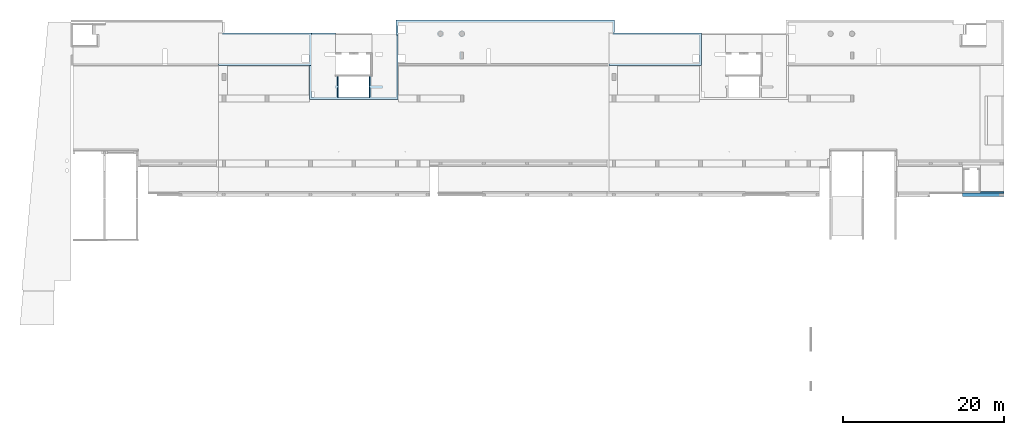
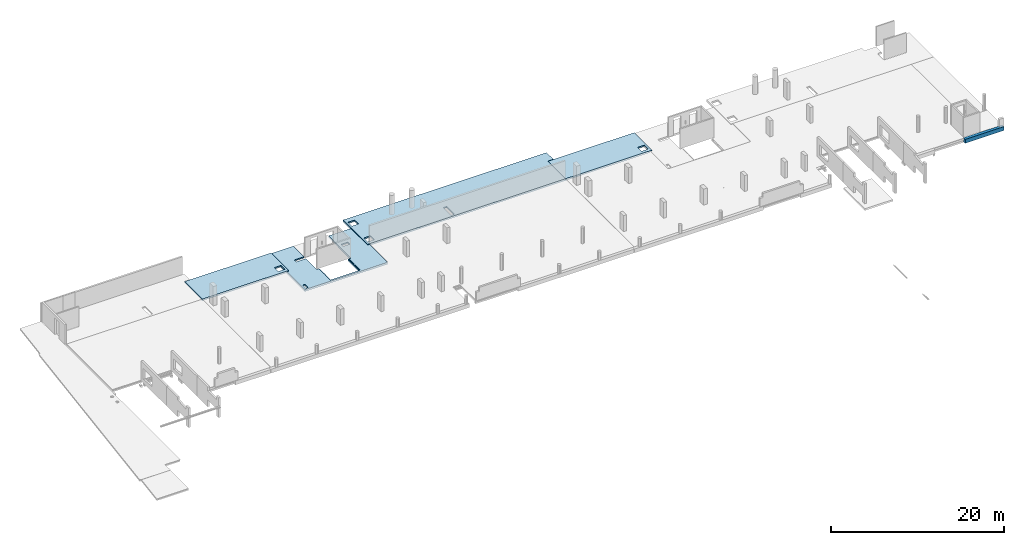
# One storey, part 6 of 8: 4 slabs, 1 beam.
"""IFC2X3 building model written with IfcOpenShell, lengths in millimetres."""

from ifc_helpers import new_model, entity, si_unit, converted_unit, derived_unit, direction, frame, origin, place, context, subcontext, project, spatial, faceted_brep, material, type_object, element, save


model = new_model("IFC2X3")

# Units and contexts
model_context = context("Model", 3, precision=0.01, world=origin(), true_north=direction((6.12303176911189e-17, 1.0)))
body_context = subcontext(model_context, "Body", "Model", "MODEL_VIEW")
ifc_project = project(units=[si_unit("LENGTHUNIT", "METRE", prefix="MILLI"), si_unit("AREAUNIT", "SQUARE_METRE"), si_unit("VOLUMEUNIT", "CUBIC_METRE"), converted_unit("PLANEANGLEUNIT", "DEGREE", entity("IfcRatioMeasure", 0.0174532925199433), si_unit("PLANEANGLEUNIT", "RADIAN"), dimensions=[0, 0, 0, 0, 0, 0, 0]), si_unit("MASSUNIT", "GRAM", prefix="KILO"), derived_unit("MASSDENSITYUNIT", [(si_unit("MASSUNIT", "GRAM", prefix="KILO"), 1), (si_unit("LENGTHUNIT", "METRE"), -3)]), si_unit("TIMEUNIT", "SECOND"), si_unit("FREQUENCYUNIT", "HERTZ"), si_unit("THERMODYNAMICTEMPERATUREUNIT", "DEGREE_CELSIUS"), derived_unit("THERMALTRANSMITTANCEUNIT", [(si_unit("MASSUNIT", "GRAM", prefix="KILO"), 1), (si_unit("THERMODYNAMICTEMPERATUREUNIT", "KELVIN"), -1), (si_unit("TIMEUNIT", "SECOND"), -3)]), derived_unit("VOLUMETRICFLOWRATEUNIT", [(si_unit("LENGTHUNIT", "METRE"), 3), (si_unit("TIMEUNIT", "SECOND"), -1)]), si_unit("ELECTRICCURRENTUNIT", "AMPERE"), si_unit("ELECTRICVOLTAGEUNIT", "VOLT"), si_unit("POWERUNIT", "WATT"), si_unit("FORCEUNIT", "NEWTON", prefix="KILO"), si_unit("ILLUMINANCEUNIT", "LUX"), si_unit("LUMINOUSFLUXUNIT", "LUMEN"), si_unit("LUMINOUSINTENSITYUNIT", "CANDELA"), derived_unit("USERDEFINED", [(si_unit("MASSUNIT", "GRAM", prefix="KILO"), -1), (si_unit("LENGTHUNIT", "METRE"), -2), (si_unit("TIMEUNIT", "SECOND"), 3), (si_unit("LUMINOUSFLUXUNIT", "LUMEN"), 1)]), derived_unit("LINEARVELOCITYUNIT", [(si_unit("LENGTHUNIT", "METRE"), 1), (si_unit("TIMEUNIT", "SECOND"), -1)]), si_unit("PRESSUREUNIT", "PASCAL"), derived_unit("USERDEFINED", [(si_unit("LENGTHUNIT", "METRE"), -2), (si_unit("MASSUNIT", "GRAM", prefix="KILO"), 1), (si_unit("TIMEUNIT", "SECOND"), -2)])], contexts=[model_context])

# Site, building, storey
site_placement = place(None, origin())
site = spatial("IfcSite", under=ifc_project, at=site_placement, Name="Default", CompositionType="ELEMENT")
building_placement = place(site_placement, origin())
building = spatial("IfcBuilding", under=site, at=building_placement, Name="niet gebruiken", CompositionType="ELEMENT")
storey_placement = place(building_placement, frame((0.0, 0.0, 3810.0)))
storey = spatial("IfcBuildingStorey", under=building, at=storey_placement, Name="01a eerste tussenverdieping", CompositionType="ELEMENT", Elevation=3810.0)

# Beam
ifc_material = material(Name="NLRS_f2_beton prefab")
beam_type = type_object("IfcBeamType", Name="NLRS_28.11_SF_WPB_prefabbeton balk enkele sponning_gen:600x540/200x200", PredefinedType="BEAM")
beam_placement = place(storey_placement, frame((119020.0, 24776.0, -530.0)))
element("IfcBeam", 1, at=beam_placement, inside=storey, type_object=beam_type, material=ifc_material, Name="NLRS_28.11_SF_WPB_prefabbeton balk enkele sponning_gen:600x540/200x200", ObjectType="NLRS_28.11_SF_WPB_prefabbeton balk enkele sponning_gen:600x540/200x200", context=body_context, shape_type="Brep", body=[
    faceted_brep([(0.0, 0.0, 540.0), (0.0, 400.0, 540.0), (0.0, 400.0, 530.0), (0.0, 400.0, 460.0), (0.0, 345.0, 460.0), (0.0, 345.0, 205.0), (0.0, 400.0, 205.0), (0.0, 400.0, 0.0), (0.0, 0.0, 0.0), (5180.0, 600.0, 200.0), (5180.0, 400.0, 200.0), (5180.0, 400.0, 460.0), (5180.0, 400.0, 530.0), (5180.0, 400.0, 540.0), (5180.0, 0.0, 540.0), (5180.0, 0.0, 0.0), (5180.0, 600.0, 0.0), (35.0, 400.0, 205.0), (35.0, 400.0, 460.0), (2225.0, 400.0, 200.0), (2225.0, 400.0, 0.0), (2225.0, 600.0, 200.0), (2225.0, 600.0, 0.0), (35.0, 345.0, 205.0), (35.0, 345.0, 460.0)], [[[0, 1, 2, 3, 4, 5, 6, 7, 8]], [[9, 10, 11, 12, 13, 14, 15, 16]], [[1, 0, 14, 13]], [[6, 17, 18, 3, 2, 1, 13, 12, 11, 10, 19, 20, 7]], [[10, 9, 21, 19]], [[9, 16, 22, 21]], [[16, 15, 8, 7, 20, 22]], [[0, 8, 15, 14]], [[5, 23, 17, 6]], [[18, 24, 4, 3]], [[23, 24, 18, 17]], [[24, 23, 5, 4]], [[20, 19, 21, 22]]]),
])

# Slabs
slab_1_placement = place(storey_placement, origin())
element("IfcSlab", 2, at=slab_1_placement, inside=storey, Name="Floor:NLRS_23.21_FL_breedplaat d=70/250_schil apart - gevlinderd_gen", ObjectType="Floor:NLRS_23.21_FL_breedplaat d=70/250_schil apart - gevlinderd_gen", PredefinedType="FLOOR", context=body_context, shape_type="Brep", body=[
    faceted_brep([(75700.0, 46496.0, -250.0), (75700.0, 45176.0, -250.0), (75470.0, 45176.0, -250.0), (75470.0, 46516.0, -250.0), (48705.0, 46516.0, -250.0), (48705.0, 46056.0, -250.0), (48725.0, 46056.0, -250.0), (48725.0, 45156.0, -250.0), (48705.0, 45156.0, -250.0), (48705.0, 44906.0, -250.0), (48474.9998491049, 44906.0, -250.0), (48474.9998491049, 46746.0, -250.0), (48725.0, 46746.0, -250.0), (49695.0, 46746.0, -250.0), (58305.0, 46746.0, -250.0), (59275.0, 46746.0, -250.0), (59525.0, 46746.0, -250.0), (60495.0, 46746.0, -250.0), (69105.0, 46746.0, -250.0), (70075.0, 46746.0, -250.0), (70325.0, 46746.0, -250.0), (71295.0, 46746.0, -250.0), (75700.0, 46746.0, -250.0), (53655.0, 45031.0, -250.0), (53683.6234362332, 45104.8856059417, -250.0), (53712.2468724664, 45178.7712118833, -250.0), (53745.0419235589, 45263.4249970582, -250.0), (53816.7395886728, 45291.2008204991, -250.0), (53888.4372537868, 45318.9766439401, -250.0), (53960.1349189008, 45346.752467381, -250.0), (54031.8325840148, 45374.5282908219, -250.0), (54087.6139571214, 45346.752467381, -250.0), (54143.395330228, 45318.9766439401, -250.0), (54199.1767033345, 45291.2008204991, -250.0), (54254.9580764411, 45263.4249970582, -250.0), (54277.4685573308, 45205.3187477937, -250.0), (54299.9790382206, 45147.2124985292, -250.0), (54316.3765635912, 45104.885606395, -250.0), (54345.0, 45031.0, -250.0), (54316.3765638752, 44957.1143943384, -250.0), (54287.7531277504, 44883.2287886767, -250.0), (54254.9580764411, 44798.5750029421, -250.0), (54183.2604113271, 44770.7991795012, -250.0), (54111.5627462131, 44743.0233560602, -250.0), (54039.8650810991, 44715.2475326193, -250.0), (53968.1674159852, 44687.4717091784, -250.0), (53912.3860428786, 44715.2475326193, -250.0), (53856.604669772, 44743.0233560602, -250.0), (53800.8232966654, 44770.7991795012, -250.0), (53745.0419235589, 44798.5750029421, -250.0), (53722.5314426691, 44856.6812522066, -250.0), (53700.0209617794, 44914.7875014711, -250.0), (53683.6234367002, 44957.1143928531, -250.0), (56895.0, 42776.0, -250.0), (56895.0, 41886.0, -250.0), (56455.0, 41886.0, -250.0), (56455.0, 42776.0, -250.0), (56420.0419235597, 45263.4249970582, -250.0), (56491.7395886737, 45291.2008204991, -250.0), (56563.4372537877, 45318.9766439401, -250.0), (56635.1349189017, 45346.752467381, -250.0), (56706.8325840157, 45374.5282908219, -250.0), (56762.6139571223, 45346.752467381, -250.0), (56818.3953302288, 45318.9766439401, -250.0), (56874.1767033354, 45291.2008204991, -250.0), (56929.958076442, 45263.4249970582, -250.0), (56952.4685573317, 45205.3187477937, -250.0), (56974.9790382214, 45147.2124985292, -250.0), (56991.376563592, 45104.885606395, -250.0), (57020.0, 45031.0, -250.0), (56991.3765638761, 44957.1143943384, -250.0), (56962.7531277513, 44883.2287886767, -250.0), (56929.958076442, 44798.5750029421, -250.0), (56858.260411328, 44770.7991795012, -250.0), (56786.562746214, 44743.0233560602, -250.0), (56714.8650811, 44715.2475326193, -250.0), (56643.167415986, 44687.4717091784, -250.0), (56587.3860428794, 44715.2475326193, -250.0), (56531.6046697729, 44743.0233560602, -250.0), (56475.8232966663, 44770.7991795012, -250.0), (56420.0419235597, 44798.5750029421, -250.0), (56397.53144267, 44856.6812522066, -250.0), (56375.0209617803, 44914.7875014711, -250.0), (56358.6234367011, 44957.1143928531, -250.0), (56330.0, 45031.0, -250.0), (56358.6234362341, 45104.8856059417, -250.0), (56387.2468724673, 45178.7712118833, -250.0), (74950.0, 41061.0, -250.0), (48724.9998491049, 41061.0, -250.0), (48724.9998491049, 41291.0, -250.0), (59775.0, 41291.0, -250.0), (59775.0, 41311.0, -250.0), (60225.0, 41311.0, -250.0), (60225.0, 41291.0, -250.0), (74950.0, 41291.0, -250.0), (48724.9998491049, 41061.0, -90.0), (48724.9998491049, 41486.0, -90.0), (48724.9998491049, 41486.0, -180.0), (48724.9998491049, 41291.0, -180.0), (48474.9998491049, 44906.0, 0.0), (48474.9998491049, 41061.0, 0.0), (48725.0, 42386.0, 0.0), (49625.0, 42386.0, 0.0), (49625.0, 45156.0, 0.0), (48725.0, 45156.0, 0.0), (48474.9998491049, 45156.0, 0.0), (48725.0, 41486.0, 0.0), (48725.0, 41061.0, 0.0), (49625.0, 41486.0, 0.0), (59775.0, 41311.0, 0.0), (60225.0, 41311.0, 0.0), (74950.0, 41061.0, 0.0), (74950.0, 41311.0, 0.0), (60225.0, 43111.0, 0.0), (74950.0, 45176.0, 0.0), (75450.0, 46746.0, 0.0), (75700.0, 45176.0, 0.0), (75700.0, 46746.0, 0.0), (48725.0, 46746.0, 0.0), (59775.0, 43111.0, 0.0), (49625.0, 46056.0, 0.0), (48725.0, 46056.0, 0.0), (48474.9998491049, 46746.0, 0.0), (75700.0, 46746.0, -210.0), (48474.9998491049, 46746.0, -210.0), (48474.9998491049, 44906.0, -210.0), (48474.9998491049, 44906.0, -90.0), (48474.9998491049, 41061.0, -90.0), (75470.0, 45176.0, -180.0), (74950.0, 45176.0, -180.0), (74950.0, 41291.0, -180.0), (49625.0, 46056.0, -180.0), (48725.0, 46056.0, -180.0), (48725.0, 45156.0, -180.0), (49625.0, 45156.0, -180.0), (49625.0, 41486.0, -180.0), (49625.0, 42386.0, -180.0), (59775.0, 43111.0, -180.0), (60225.0, 43111.0, -180.0), (60225.0, 41311.0, -180.0), (59775.0, 41311.0, -180.0), (48724.9998491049, 42386.0, -90.0), (48725.0, 42386.0, -180.0), (60225.0, 41291.0, -180.0), (75470.0, 46516.0, -180.0), (56929.958076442, 45263.4249970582, -180.0), (56952.4685573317, 45205.3187477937, -180.0), (56974.9790382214, 45147.2124985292, -180.0), (56997.4895191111, 45089.1062492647, -180.0), (57020.0, 45031.0, -180.0), (56997.4895191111, 44972.8937507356, -180.0), (56974.9790382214, 44914.7875014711, -180.0), (56952.4685573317, 44856.6812522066, -180.0), (56929.958076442, 44798.5750029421, -180.0), (56895.0, 42776.0, -180.0), (56895.0, 41886.0, -180.0), (59775.0, 41291.0, -180.0), (56455.0, 41886.0, -180.0), (54031.8325840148, 44687.4717091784, -180.0), (53960.1349189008, 44715.2475326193, -180.0), (53888.4372537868, 44743.0233560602, -180.0), (53816.7395886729, 44770.7991795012, -180.0), (53745.0419235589, 44798.5750029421, -180.0), (48724.9998491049, 44906.0, -180.0), (48705.0, 45156.0, -180.0), (48705.0, 44906.0, -180.0), (53722.5314426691, 44856.6812522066, -180.0), (53700.0209617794, 44914.7875014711, -180.0), (53677.5104808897, 44972.8937507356, -180.0), (53655.0, 45031.0, -180.0), (53677.5104808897, 45089.1062492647, -180.0), (53700.0209617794, 45147.2124985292, -180.0), (53722.5314426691, 45205.3187477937, -180.0), (53745.0419235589, 45263.4249970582, -180.0), (53800.8232966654, 45291.2008204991, -180.0), (53856.604669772, 45318.9766439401, -180.0), (53912.3860428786, 45346.752467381, -180.0), (53968.1674159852, 45374.5282908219, -180.0), (48705.0, 46516.0, -180.0), (48705.0, 46056.0, -180.0), (56643.167415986, 45374.5282908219, -180.0), (56714.8650811, 45346.752467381, -180.0), (54039.8650810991, 45346.752467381, -180.0), (54111.5627462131, 45318.9766439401, -180.0), (54183.2604113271, 45291.2008204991, -180.0), (54254.9580764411, 45263.4249970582, -180.0), (56587.3860428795, 45346.752467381, -180.0), (56531.6046697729, 45318.9766439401, -180.0), (56475.8232966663, 45291.2008204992, -180.0), (56420.0419235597, 45263.4249970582, -180.0), (54277.4685573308, 45205.3187477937, -180.0), (54299.9790382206, 45147.2124985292, -180.0), (54322.4895191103, 45089.1062492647, -180.0), (54345.0, 45031.0, -180.0), (56397.53144267, 45205.3187477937, -180.0), (56375.0209617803, 45147.2124985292, -180.0), (56352.5104808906, 45089.1062492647, -180.0), (56330.0, 45031.0, -180.0), (54322.4895191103, 44972.8937507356, -180.0), (54299.9790382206, 44914.7875014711, -180.0), (54277.4685573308, 44856.6812522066, -180.0), (54254.9580764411, 44798.5750029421, -180.0), (56352.5104808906, 44972.8937507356, -180.0), (56375.0209617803, 44914.7875014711, -180.0), (56397.53144267, 44856.6812522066, -180.0), (56420.0419235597, 44798.5750029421, -180.0), (56455.0, 42776.0, -180.0), (56491.7395886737, 44770.7991795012, -180.0), (56563.4372537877, 44743.0233560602, -180.0), (56635.1349189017, 44715.2475326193, -180.0), (56706.8325840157, 44687.4717091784, -180.0), (56762.6139571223, 44715.2475326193, -180.0), (56818.3953302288, 44743.0233560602, -180.0), (56874.1767033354, 44770.7991795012, -180.0), (54087.6139571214, 44715.2475326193, -180.0), (54143.395330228, 44743.0233560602, -180.0), (54199.1767033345, 44770.7991795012, -180.0), (56858.260411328, 45291.2008204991, -180.0), (56786.562746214, 45318.9766439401, -180.0), (48724.9998491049, 44906.0, -90.0)], [[[0, 1, 2, 3, 4, 5, 6, 7, 8, 9, 10, 11, 12, 13, 14, 15, 16, 17, 18, 19, 20, 21, 22]], [[23, 24, 25, 26, 27, 28, 29, 30, 31, 32, 33, 34, 35, 36, 37, 38, 39, 40, 41, 42, 43, 44, 45, 46, 47, 48, 49, 50, 51, 52]], [[53, 54, 55, 56]], [[57, 58, 59, 60, 61, 62, 63, 64, 65, 66, 67, 68, 69, 70, 71, 72, 73, 74, 75, 76, 77, 78, 79, 80, 81, 82, 83, 84, 85, 86]], [[87, 88, 89, 90, 91, 92, 93, 94]], [[89, 88, 95, 96, 97, 98]], [[99, 100, 101]], [[101, 102, 99]], [[102, 103, 99]], [[104, 99, 103]], [[105, 99, 104]], [[106, 101, 100]], [[106, 100, 107]], [[108, 106, 107]], [[107, 109, 108]], [[110, 109, 107]], [[107, 111, 110]], [[110, 111, 112]], [[113, 110, 112]], [[113, 112, 114]], [[115, 113, 114]], [[116, 115, 114]], [[115, 116, 117]], [[118, 113, 115]], [[118, 119, 113]], [[118, 120, 119]], [[121, 120, 118]], [[118, 122, 121]], [[121, 122, 105]], [[104, 121, 105]], [[120, 103, 119]], [[102, 109, 119]], [[102, 119, 103]], [[109, 102, 108]], [[118, 115, 117, 123, 22, 21, 20, 19, 18, 17, 16, 15, 14, 13, 12, 11, 124, 122]], [[0, 22, 123, 117, 116, 1]], [[105, 122, 124, 11, 10, 125, 126, 127, 100, 99]], [[128, 2, 1, 116, 114, 129]], [[130, 129, 114, 112, 111, 87, 94]], [[87, 111, 107, 100, 127, 95, 88]], [[131, 120, 121, 132]], [[132, 121, 104, 133, 7, 6]], [[133, 104, 103, 134]], [[134, 103, 120, 131]], [[135, 108, 102, 136]], [[113, 119, 137, 138]], [[110, 113, 138, 139]], [[109, 110, 139, 92, 91, 140]], [[119, 109, 140, 137]], [[141, 142, 136, 102, 101]], [[141, 101, 106, 96]], [[96, 106, 108, 135, 97]], [[143, 139, 130]], [[138, 130, 139]], [[129, 130, 138]], [[144, 129, 138]], [[144, 138, 145]], [[137, 145, 138]], [[137, 146, 145]], [[137, 147, 146]], [[137, 148, 147]], [[137, 149, 148]], [[137, 150, 149]], [[137, 151, 150]], [[137, 152, 151]], [[137, 153, 152]], [[154, 153, 137]], [[137, 155, 154]], [[140, 155, 137]], [[155, 140, 156]], [[157, 155, 156]], [[157, 156, 135]], [[156, 98, 135]], [[135, 98, 97]], [[158, 157, 135]], [[135, 159, 158]], [[135, 160, 159]], [[135, 161, 160]], [[135, 162, 161]], [[136, 162, 135]], [[162, 136, 134]], [[136, 163, 134]], [[163, 136, 142]], [[134, 163, 133]], [[133, 163, 164]], [[164, 163, 165]], [[134, 166, 162]], [[134, 167, 166]], [[134, 168, 167]], [[134, 169, 168]], [[131, 169, 134]], [[131, 170, 169]], [[131, 171, 170]], [[131, 172, 171]], [[131, 173, 172]], [[131, 174, 173]], [[131, 175, 174]], [[131, 176, 175]], [[131, 177, 176]], [[131, 178, 177]], [[178, 131, 132]], [[132, 179, 178]], [[178, 180, 177]], [[178, 144, 180]], [[144, 181, 180]], [[180, 182, 177]], [[180, 183, 182]], [[180, 184, 183]], [[180, 185, 184]], [[185, 180, 186]], [[185, 186, 187]], [[185, 187, 188]], [[185, 188, 189]], [[189, 190, 185]], [[189, 191, 190]], [[189, 192, 191]], [[189, 193, 192]], [[193, 189, 194]], [[193, 194, 195]], [[193, 195, 196]], [[193, 196, 197]], [[197, 198, 193]], [[197, 199, 198]], [[197, 200, 199]], [[197, 201, 200]], [[201, 197, 202]], [[201, 202, 203]], [[201, 203, 204]], [[201, 204, 205]], [[201, 205, 206]], [[206, 205, 207]], [[206, 207, 208]], [[206, 208, 209]], [[206, 209, 210]], [[154, 210, 211]], [[210, 154, 206]], [[154, 211, 212]], [[154, 212, 213]], [[154, 213, 153]], [[206, 158, 214]], [[206, 157, 158]], [[206, 214, 215]], [[206, 215, 216]], [[206, 216, 201]], [[144, 145, 217]], [[144, 217, 218]], [[144, 218, 181]], [[144, 128, 129]], [[144, 3, 2, 128]], [[143, 130, 94, 93]], [[156, 90, 89, 98]], [[178, 179, 5, 4]], [[165, 9, 8, 164]], [[178, 4, 3, 144]], [[143, 93, 92, 139]], [[140, 91, 90, 156]], [[164, 8, 7, 133]], [[132, 6, 5, 179]], [[206, 56, 55, 157]], [[155, 157, 55, 54]], [[155, 54, 53, 154]], [[206, 154, 53, 56]], [[205, 204, 203, 202, 197, 84, 83, 82, 81, 80]], [[77, 209, 208]], [[77, 76, 209]], [[78, 208, 207]], [[76, 210, 209]], [[72, 71, 70, 69, 149, 150, 151, 152, 153]], [[153, 213, 72]], [[207, 205, 79]], [[210, 75, 211]], [[212, 73, 213]], [[211, 75, 74]], [[205, 80, 79]], [[78, 207, 79]], [[210, 76, 75]], [[72, 213, 73]], [[208, 78, 77]], [[74, 212, 211]], [[73, 212, 74]], [[145, 146, 147, 148, 149, 69, 68, 67, 66, 65]], [[186, 60, 59]], [[62, 61, 181]], [[63, 218, 217]], [[217, 145, 64]], [[61, 60, 180]], [[57, 86, 85, 84, 197, 196, 195, 194, 189]], [[189, 188, 57]], [[180, 60, 186]], [[187, 58, 188]], [[218, 62, 181]], [[218, 63, 62]], [[145, 65, 64]], [[63, 217, 64]], [[57, 188, 58]], [[59, 187, 186]], [[61, 180, 181]], [[58, 187, 59]], [[185, 190, 191, 192, 193, 38, 37, 36, 35, 34]], [[176, 29, 28]], [[31, 30, 182]], [[32, 183, 184]], [[184, 185, 33]], [[30, 29, 177]], [[26, 25, 24, 23, 169, 170, 171, 172, 173]], [[173, 174, 26]], [[177, 29, 176]], [[175, 27, 174]], [[183, 31, 182]], [[183, 32, 31]], [[185, 34, 33]], [[32, 184, 33]], [[26, 174, 27]], [[28, 175, 176]], [[30, 177, 182]], [[27, 175, 28]], [[162, 166, 167, 168, 169, 23, 52, 51, 50, 49]], [[46, 159, 160]], [[46, 45, 159]], [[47, 160, 161]], [[45, 158, 159]], [[41, 40, 39, 38, 193, 198, 199, 200, 201]], [[201, 216, 41]], [[161, 162, 48]], [[158, 44, 214]], [[215, 42, 216]], [[214, 44, 43]], [[162, 49, 48]], [[47, 161, 48]], [[158, 45, 44]], [[41, 216, 42]], [[160, 47, 46]], [[43, 215, 214]], [[42, 215, 43]], [[127, 126, 219, 141, 96, 95]], [[219, 163, 142]], [[142, 141, 219]], [[9, 165, 163, 219, 126, 125, 10]]]),
])
slab_2_placement = place(storey_placement, origin())
element("IfcSlab", 3, at=slab_2_placement, inside=storey, Name="Floor:NLRS_23.21_FL_breedplaat d=70/250_schil apart - gevlinderd_gen", ObjectType="Floor:NLRS_23.21_FL_breedplaat d=70/250_schil apart - gevlinderd_gen", PredefinedType="FLOOR", context=body_context, shape_type="Brep", body=[
    faceted_brep([(37925.0, 45156.0, -250.0), (37925.0, 41061.0, -250.0), (37674.9998491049, 41061.0, -250.0), (26370.0, 41061.0, -250.0), (26370.0, 41291.0, -250.0), (37695.0, 41291.0, -250.0), (37695.0, 44926.0, -250.0), (26870.0, 44926.0, -250.0), (26870.0, 45156.0, -250.0), (37674.9998491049, 45156.0, -250.0), (36775.0, 42386.0, 0.0), (37675.0, 42386.0, 0.0), (37675.0, 41486.0, 0.0), (36775.0, 41486.0, 0.0), (37925.0, 45156.0, 0.0), (26850.0, 45156.0, 0.0), (26370.0, 45156.0, 0.0), (26370.0, 41311.0, 0.0), (26370.0, 41061.0, 0.0), (37675.0, 41061.0, 0.0), (37925.0, 41061.0, 0.0), (37925.0, 43386.0, 0.0), (37925.0, 44411.0, 0.0), (37925.0, 44906.0, 0.0), (37925.0, 45156.0, -90.0), (26870.0, 45156.0, -180.0), (26370.0, 45156.0, -180.0), (37925.0, 41061.0, -90.0), (26370.0, 41291.0, -180.0), (36775.0, 42386.0, -180.0), (37675.0, 42386.0, -180.0), (36775.0, 41486.0, -180.0), (37675.0, 41486.0, -180.0), (37695.0, 41291.0, -180.0), (26870.0, 44926.0, -180.0), (37695.0, 44926.0, -180.0)], [[[0, 1, 2, 3, 4, 5, 6, 7, 8, 9]], [[10, 11, 12, 13], [14, 15, 16, 17, 18, 19, 20, 21, 22, 23]], [[16, 15, 14, 24, 0, 9, 8, 25, 26]], [[1, 0, 24, 14, 23, 22, 21, 20, 27]], [[3, 2, 1, 27, 20, 19, 18]], [[18, 17, 16, 26, 28, 4, 3]], [[11, 10, 29, 30]], [[10, 13, 31, 29]], [[13, 12, 32, 31]], [[12, 11, 30, 32]], [[30, 29, 31, 32], [33, 28, 26, 25, 34, 35]], [[34, 25, 8, 7]], [[35, 34, 7, 6]], [[33, 35, 6, 5]], [[28, 33, 5, 4]]], outer=[[True], [False, True], [True], [True], [True], [True], [True], [True], [True], [True], [False, True], [True], [True], [True], [True]]),
])
slab_3_placement = place(storey_placement, origin())
element("IfcSlab", 4, at=slab_3_placement, inside=storey, Name="Floor:NLRS_23.21_FL_breedplaat d=70/250_schil apart_gen", ObjectType="Floor:NLRS_23.21_FL_breedplaat d=70/250_schil apart_gen", PredefinedType="FLOOR", context=body_context, shape_type="Brep", body=[
    faceted_brep([(37674.9998491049, 45156.0, -340.0), (40924.9998491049, 45156.0, -340.0), (40924.9998491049, 44926.0, -340.0), (37905.0, 44926.0, -340.0), (37905.0, 37826.0, -340.0), (37925.0, 37826.0, -340.0), (37925.0, 37106.0, -340.0), (38225.0, 37106.0, -340.0), (38225.0, 37086.0, -340.0), (41029.9997832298, 37086.0, -340.0), (41029.9997832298, 38306.0, -340.0), (40908.0, 38306.0, -340.0), (40908.0, 38546.0, -340.0), (41029.9997832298, 38546.0, -340.0), (41029.9997832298, 39726.0, -340.0), (40904.9998491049, 39726.0, -340.0), (40904.9998491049, 42256.0, -340.0), (40924.9998491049, 42256.0, -340.0), (40924.9998491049, 39746.0, -340.0), (41300.0, 39746.0, -340.0), (41299.9997832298, 38326.0, -340.0), (41299.9997832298, 37106.0, -340.0), (45099.9997832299, 37106.0, -340.0), (45100.0, 38526.0, -340.0), (45100.0, 39746.0, -340.0), (45474.999849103, 39746.0, -340.0), (45474.999849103, 42696.0, -340.0), (45494.999849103, 42696.0, -340.0), (45494.999849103, 39726.0, -340.0), (45370.0, 39726.0, -340.0), (45370.0, 38546.0, -340.0), (46795.0, 38546.0, -340.0), (46795.0, 38306.0, -340.0), (45369.9997832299, 38306.0, -340.0), (45369.9997832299, 37086.0, -340.0), (48495.0, 37086.0, -340.0), (48495.0, 44906.0, -340.0), (48724.9998491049, 44906.0, -340.0), (48724.9998491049, 36856.0, -340.0), (48475.0, 36856.0, -340.0), (37925.0, 36856.0, -340.0), (37674.9998491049, 36856.0, -340.0), (37674.9998491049, 44906.0, -340.0), (38225.0, 37826.0, -90.0), (38225.0, 37106.0, -90.0), (37925.0, 37106.0, -90.0), (37925.0, 37826.0, -90.0), (48724.9998491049, 36856.0, -90.0), (48724.9998491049, 41061.0, -90.0), (48724.9998491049, 41486.0, -90.0), (48724.9998491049, 42386.0, -90.0), (48724.9998491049, 44906.0, -90.0), (48474.9998491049, 44906.0, -90.0), (45474.999849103, 44906.0, -90.0), (45474.999849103, 42696.0, -90.0), (45474.999849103, 39746.0, -90.0), (45210.0, 39746.0, -90.0), (45210.0, 38526.0, -90.0), (45099.9997832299, 38526.0, -90.0), (45099.9997832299, 38326.0, -90.0), (45210.0, 38326.0, -90.0), (45210.0, 37106.0, -90.0), (41189.9997832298, 37106.0, -90.0), (41189.9997832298, 38326.0, -90.0), (41300.0, 38326.0, -90.0), (41300.0, 38526.0, -90.0), (41189.9997832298, 38526.0, -90.0), (41189.9997832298, 39746.0, -90.0), (40924.9998491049, 39746.0, -90.0), (40924.9998491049, 42256.0, -90.0), (39627.4998491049, 42256.0, -90.0), (39627.4998491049, 42696.0, -90.0), (40924.9998491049, 42696.0, -90.0), (40924.9998491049, 45156.0, -90.0), (37925.0, 45156.0, -90.0), (37925.0, 44906.0, -90.0), (37925.0, 41061.0, -90.0), (37674.9998491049, 41061.0, -90.0), (37674.9998491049, 36856.0, -90.0), (45880.0, 42701.0, -90.0), (46780.0, 42701.0, -90.0), (46780.0, 42251.0, -90.0), (45880.0, 42251.0, -90.0), (37674.9998491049, 45156.0, -250.0), (37925.0, 45156.0, -250.0), (48724.9998491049, 44906.0, -250.0), (48724.9998491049, 42386.0, -250.0), (48724.9998491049, 42386.0, -180.0), (48724.9998491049, 44906.0, -180.0), (48724.9998491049, 41486.0, -250.0), (48724.9998491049, 41291.0, -250.0), (48724.9998491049, 41291.0, -180.0), (48724.9998491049, 41486.0, -180.0), (37674.9998491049, 41061.0, -250.0), (37674.9998491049, 41486.0, -250.0), (37674.9998491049, 42386.0, -250.0), (37674.9998491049, 44906.0, -250.0), (40924.9998491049, 42696.0, -270.0), (40924.9998491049, 42716.0, -270.0), (40924.9998491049, 44926.0, -270.0), (45100.0, 39746.0, -130.0), (45210.0, 39746.0, -130.0), (45474.999849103, 44906.0, -210.0), (45474.999849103, 44906.0, -270.0), (45474.999849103, 42716.0, -270.0), (45474.999849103, 42696.0, -270.0), (41299.9997832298, 38326.0, -130.0), (41299.9997832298, 37106.0, -130.0), (41189.9997832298, 37106.0, -130.0), (45210.0, 37106.0, -130.0), (45099.9997832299, 37106.0, -130.0), (45099.9997832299, 38526.0, -340.0), (45099.9997832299, 38326.0, -130.0), (45100.0, 38526.0, -130.0), (41189.9997832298, 39746.0, -130.0), (41300.0, 39746.0, -130.0), (48705.0, 44906.0, -180.0), (48705.0, 44906.0, -250.0), (48495.0, 44906.0, -270.0), (41300.0, 38326.0, -340.0), (41300.0, 38526.0, -130.0), (45210.0, 38526.0, -130.0), (45099.9997832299, 38526.0, -130.0), (45100.0, 38526.0, -90.0), (41189.9997832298, 38326.0, -130.0), (41300.0, 38326.0, -130.0), (41299.9997832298, 38326.0, -90.0), (39627.4998491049, 42696.0, -270.0), (39627.4998491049, 42256.0, -270.0), (40904.9998491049, 42256.0, -270.0), (38225.0, 37826.0, -270.0), (38225.0, 37106.0, -270.0), (37925.0, 37826.0, -270.0), (41189.9997832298, 38526.0, -130.0), (41299.9997832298, 38526.0, -130.0), (45100.0, 37106.0, -130.0), (45210.0, 38326.0, -130.0), (45100.0, 38326.0, -130.0), (45494.999849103, 42696.0, -270.0), (48495.0, 37086.0, -270.0), (45369.9997832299, 37086.0, -270.0), (45369.9997832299, 38306.0, -270.0), (46795.0, 38306.0, -270.0), (46795.0, 38546.0, -270.0), (45370.0, 38546.0, -270.0), (45370.0, 39726.0, -270.0), (45494.999849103, 39726.0, -270.0), (46780.0, 42701.0, -270.0), (45880.0, 42701.0, -270.0), (45880.0, 42251.0, -270.0), (46780.0, 42251.0, -270.0), (40904.9998491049, 39726.0, -270.0), (41029.9997832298, 37086.0, -270.0), (41029.9997832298, 38306.0, -270.0), (41029.9997832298, 39726.0, -270.0), (41029.9997832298, 38546.0, -270.0), (38225.0, 37086.0, -270.0), (37905.0, 37826.0, -270.0), (37905.0, 44926.0, -270.0), (40908.0, 38546.0, -270.0), (40908.0, 38306.0, -270.0), (37925.0, 41061.0, -250.0), (48705.0, 42386.0, -250.0), (48705.0, 41291.0, -180.0), (48705.0, 41486.0, -180.0), (48705.0, 41291.0, -250.0), (48705.0, 41486.0, -250.0), (48705.0, 42386.0, -180.0)], [[[0, 1, 2, 3, 4, 5, 6, 7, 8, 9, 10, 11, 12, 13, 14, 15, 16, 17, 18, 19, 20, 21, 22, 23, 24, 25, 26, 27, 28, 29, 30, 31, 32, 33, 34, 35, 36, 37, 38, 39, 40, 41, 42]], [[43, 44, 45, 46], [47, 48, 49, 50, 51, 52, 53, 54, 55, 56, 57, 58, 59, 60, 61, 62, 63, 64, 65, 66, 67, 68, 69, 70, 71, 72, 73, 74, 75, 76, 77, 78], [79, 80, 81, 82]], [[1, 0, 83, 84, 74, 73]], [[38, 37, 85, 86, 87, 88, 51, 50, 49, 48, 47], [89, 90, 91, 92]], [[41, 40, 39, 38, 47, 78]], [[0, 42, 41, 78, 77, 93, 94, 95, 96, 83]], [[1, 73, 72, 97, 98, 99, 2]], [[25, 24, 100, 101, 56, 55]], [[25, 55, 54, 53, 102, 103, 104, 105, 26]], [[21, 20, 106, 107]], [[22, 21, 107, 108, 62, 61, 109, 110]], [[111, 22, 110, 112, 59, 58, 113]], [[19, 18, 68, 67, 114, 115]], [[53, 52, 51, 88, 116, 117, 85, 37, 36, 118, 103, 102]], [[24, 23, 113, 100]], [[119, 19, 115, 120, 65, 64, 106]], [[113, 121, 101, 100]], [[101, 121, 57, 56]], [[121, 122, 123, 57]], [[108, 107, 106, 124]], [[108, 124, 63, 62]], [[124, 125, 126, 63]], [[72, 71, 127, 97]], [[71, 70, 128, 127]], [[70, 69, 17, 16, 129, 128]], [[44, 43, 130, 131]], [[6, 45, 44, 131, 7]], [[45, 6, 5, 132, 46]], [[43, 46, 132, 130]], [[133, 120, 115, 114]], [[133, 114, 67, 66]], [[134, 133, 66, 65]], [[135, 109, 136, 112]], [[137, 136, 60, 59]], [[136, 109, 61, 60]], [[138, 105, 104, 103, 118, 139, 140, 141, 142, 143, 144, 145, 146], [147, 148, 149, 150]], [[151, 129, 16, 15]], [[146, 145, 29, 28]], [[152, 153, 10, 9]], [[141, 140, 34, 33]], [[154, 151, 15, 14]], [[144, 143, 31, 30]], [[145, 144, 30, 29]], [[155, 154, 14, 13]], [[156, 152, 9, 8]], [[156, 8, 7, 131]], [[4, 157, 132, 5]], [[158, 157, 4, 3]], [[99, 158, 3, 2]], [[35, 139, 118, 36]], [[140, 139, 35, 34]], [[138, 146, 28, 27]], [[105, 138, 27, 26]], [[159, 155, 13, 12]], [[160, 159, 12, 11]], [[153, 160, 11, 10]], [[142, 141, 33, 32]], [[143, 142, 32, 31]], [[161, 84, 83, 96, 95, 94, 93]], [[84, 161, 76, 75, 74]], [[161, 93, 77, 76]], [[117, 162, 86, 85]], [[163, 164, 92, 91]], [[165, 163, 91, 90]], [[165, 166, 164, 163]], [[164, 166, 89, 92]], [[162, 167, 87, 86]], [[167, 162, 117, 116]], [[80, 79, 148, 147]], [[81, 80, 147, 150]], [[82, 81, 150, 149]], [[79, 82, 149, 148]], [[87, 167, 116, 88]], [[166, 165, 90, 89]], [[158, 99, 98, 97, 127, 128, 129, 151, 154, 155, 159, 160, 153, 152, 156, 131, 130, 132, 157]], [[68, 18, 17, 69]]], outer=[[True], [False, True, False], [True], [True, False], [True], [True], [True], [True], [True], [True], [True], [True], [True], [True], [True], [True], [True], [True], [True], [True], [True], [True], [True], [True], [True], [True], [True], [True], [True], [True], [True], [True], [True], [True], [True], [True, False], [True], [True], [True], [True], [True], [True], [True], [True], [True], [True], [True], [True], [True], [True], [True], [True], [True], [True], [True], [True], [True], [True], [True], [True], [True], [True], [True], [True], [True], [True], [True], [True], [True], [True], [True], [True], [True], [True], [True], [True]]),
])
slab_4_placement = place(storey_placement, origin())
element("IfcSlab", 5, at=slab_4_placement, inside=storey, Name="Floor:NLRS_23.21_FL_breedplaat d=70/250_schil apart - gevlinderd_gen", ObjectType="Floor:NLRS_23.21_FL_breedplaat d=70/250_schil apart - gevlinderd_gen", PredefinedType="FLOOR", context=body_context, shape_type="Brep", body=[
    faceted_brep([(75470.0, 44926.0, -250.0), (75470.0, 45156.0, -250.0), (86275.0, 45156.0, -250.0), (86275.0, 44926.0, -250.0), (85375.0, 42386.0, 0.0), (86275.0, 42386.0, 0.0), (86275.0, 41486.0, 0.0), (85375.0, 41486.0, 0.0), (74970.0, 41061.0, 0.0), (86275.0, 41061.0, 0.0), (86525.0, 41061.0, 0.0), (86525.0, 43386.0, 0.0), (86525.0, 44411.0, 0.0), (86525.0, 44906.0, 0.0), (86525.0, 45156.0, 0.0), (75450.0, 45156.0, 0.0), (74970.0, 45156.0, 0.0), (74970.0, 41311.0, 0.0), (74970.0, 41061.0, -250.0), (86275.0, 41061.0, -250.0), (86275.0, 41061.0, -90.0), (86525.0, 41061.0, -90.0), (74970.0, 45156.0, -180.0), (74970.0, 41291.0, -180.0), (74970.0, 41291.0, -250.0), (86525.0, 45156.0, -90.0), (86275.0, 45156.0, -90.0), (75470.0, 45156.0, -180.0), (86525.0, 44906.0, -90.0), (85375.0, 42386.0, -180.0), (86275.0, 42386.0, -180.0), (86275.0, 42386.0, -90.0), (85375.0, 41486.0, -180.0), (86275.0, 41486.0, -90.0), (86275.0, 41486.0, -180.0), (86275.0, 41486.0, -90.0), (75470.0, 44926.0, -180.0), (86275.0, 44926.0, -180.0), (86275.0, 42386.0, -180.0), (86275.0, 41486.0, -180.0), (86275.0, 41291.0, -180.0), (86275.0, 41291.0, -250.0), (86275.0, 42386.0, -90.0)], [[[0, 1, 2, 3]], [[4, 5, 6, 7], [8, 9, 10, 11, 12, 13, 14, 15, 16, 17]], [[10, 9, 8, 18, 19, 20, 21]], [[8, 17, 16, 22, 23, 24, 18]], [[16, 15, 14, 25, 26, 2, 1, 27, 22]], [[14, 13, 12, 11, 10, 21, 28, 25]], [[5, 4, 29, 30, 31]], [[4, 7, 32, 29]], [[7, 6, 33, 34, 32]], [[6, 5, 31, 35]], [[27, 36, 37, 38, 29, 32, 39, 40, 23, 22]], [[36, 27, 1, 0]], [[36, 0, 3, 37]], [[24, 23, 40, 41]], [[31, 26, 25, 28, 21, 20, 35]], [[35, 20, 19, 41, 40, 39]], [[26, 42, 30, 37, 3, 2]], [[18, 24, 41, 19]]], outer=[[True], [False, True], [True], [True], [True], [True], [True], [True], [True], [True], [True], [True], [True], [True], [True], [True], [True], [True]]),
])

save(model, "model.ifc")
